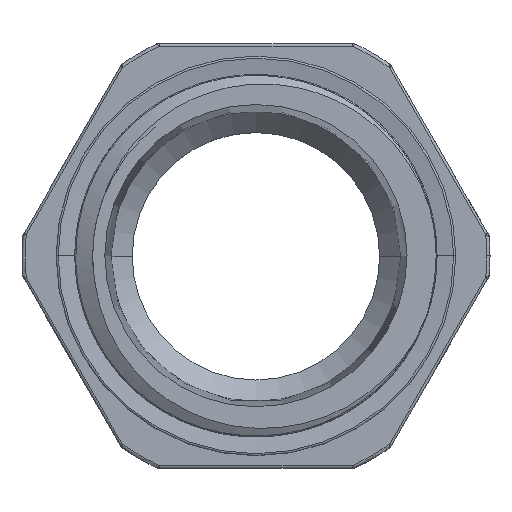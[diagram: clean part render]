
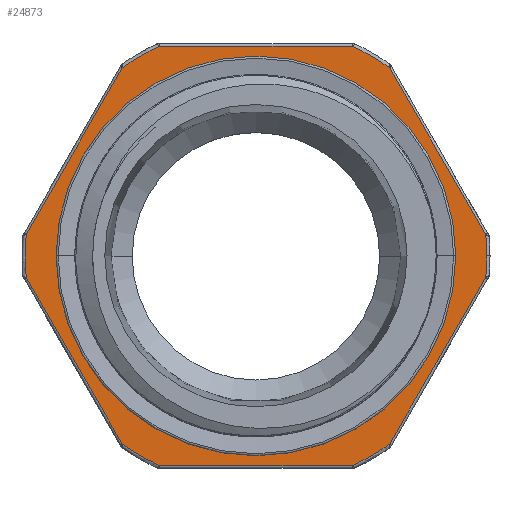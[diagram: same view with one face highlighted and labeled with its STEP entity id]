
A CAD part, top view. The second image highlights one B-rep face of the part: STEP entity #24873.
In plain terms, the highlighted planar face has unit normal (0, 0, 1).
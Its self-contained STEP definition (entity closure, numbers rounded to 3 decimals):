
#12 = CIRCLE ( 'NONE', #16426, 14.1 ) ;
#101 = CIRCLE ( 'NONE', #24486, 14.1 ) ;
#258 = DIRECTION ( 'NONE',  ( 0., 0., 1. ) ) ;
#395 = DIRECTION ( 'NONE',  ( 1., 0., 0. ) ) ;
#489 = DIRECTION ( 'NONE',  ( -1., 0., 0. ) ) ;
#787 = EDGE_CURVE ( 'NONE', #24104, #8530, #5812, .T. ) ;
#842 = DIRECTION ( 'NONE',  ( 0., 0., 1. ) ) ;
#926 = VERTEX_POINT ( 'NONE', #19427 ) ;
#1066 = LINE ( 'NONE', #7598, #7062 ) ;
#1251 = VERTEX_POINT ( 'NONE', #16241 ) ;
#1585 = VERTEX_POINT ( 'NONE', #7183 ) ;
#1716 = DIRECTION ( 'NONE',  ( 0., 0., 1. ) ) ;
#1762 = LINE ( 'NONE', #5958, #7954 ) ;
#1976 = AXIS2_PLACEMENT_3D ( 'NONE', #26405, #842, #9331 ) ;
#2004 = EDGE_CURVE ( 'NONE', #11115, #12052, #8380, .T. ) ;
#2221 = EDGE_CURVE ( 'NONE', #1585, #8891, #1066, .T. ) ;
#2350 = EDGE_CURVE ( 'NONE', #16838, #24739, #13855, .T. ) ;
#2392 = EDGE_CURVE ( 'NONE', #23527, #11115, #1762, .T. ) ;
#2720 = VERTEX_POINT ( 'NONE', #23976 ) ;
#3527 = ORIENTED_EDGE ( 'NONE', *, *, #13540, .T. ) ;
#3899 = VECTOR ( 'NONE', #20408, 1000. ) ;
#4202 = LINE ( 'NONE', #16554, #10109 ) ;
#4248 = ORIENTED_EDGE ( 'NONE', *, *, #2350, .T. ) ;
#4382 = PLANE ( 'NONE',  #17351 ) ;
#4434 = VECTOR ( 'NONE', #22342, 1000. ) ;
#4510 = CARTESIAN_POINT ( 'NONE',  ( 0., 0., 3.352 ) ) ;
#4773 = AXIS2_PLACEMENT_3D ( 'NONE', #10549, #5996, #24845 ) ;
#4802 = VERTEX_POINT ( 'NONE', #22478 ) ;
#5005 = VECTOR ( 'NONE', #489, 1000. ) ;
#5249 = DIRECTION ( 'NONE',  ( 0., 0., 1. ) ) ;
#5403 = CIRCLE ( 'NONE', #24880, 14.1 ) ;
#5604 = ORIENTED_EDGE ( 'NONE', *, *, #7449, .T. ) ;
#5812 = LINE ( 'NONE', #5944, #3899 ) ;
#5940 = CARTESIAN_POINT ( 'NONE',  ( -0.002, -0.001, 3.352 ) ) ;
#5944 = CARTESIAN_POINT ( 'NONE',  ( -14.842, -0.073, 3.352 ) ) ;
#5958 = CARTESIAN_POINT ( 'NONE',  ( 14.838, 0.071, 3.352 ) ) ;
#5996 = DIRECTION ( 'NONE',  ( 0., 0., 1. ) ) ;
#6711 = VERTEX_POINT ( 'NONE', #23828 ) ;
#6765 = CIRCLE ( 'NONE', #17439, 12.21 ) ;
#6861 = DIRECTION ( 'NONE',  ( 1., 0., 0. ) ) ;
#6936 = EDGE_CURVE ( 'NONE', #12052, #1585, #101, .T. ) ;
#7015 = CARTESIAN_POINT ( 'NONE',  ( 0., 0., 3.352 ) ) ;
#7062 = VECTOR ( 'NONE', #22062, 1000. ) ;
#7183 = CARTESIAN_POINT ( 'NONE',  ( 14.039, 1.311, 3.352 ) ) ;
#7307 = ORIENTED_EDGE ( 'NONE', *, *, #25964, .T. ) ;
#7330 = CARTESIAN_POINT ( 'NONE',  ( -7.36, -12.889, 3.352 ) ) ;
#7360 = CARTESIAN_POINT ( 'NONE',  ( -14.038, 1.319, 3.352 ) ) ;
#7387 = EDGE_CURVE ( 'NONE', #2720, #4802, #6765, .T. ) ;
#7449 = EDGE_CURVE ( 'NONE', #1251, #6711, #17330, .T. ) ;
#7598 = CARTESIAN_POINT ( 'NONE',  ( 7.356, 12.887, 3.352 ) ) ;
#7954 = VECTOR ( 'NONE', #14121, 1000. ) ;
#8252 = CARTESIAN_POINT ( 'NONE',  ( -0.002, -0.001, 3.352 ) ) ;
#8283 = DIRECTION ( 'NONE',  ( 0., 0., 1. ) ) ;
#8380 = CIRCLE ( 'NONE', #15475, 14.1 ) ;
#8530 = VERTEX_POINT ( 'NONE', #7360 ) ;
#8822 = ORIENTED_EDGE ( 'NONE', *, *, #2221, .T. ) ;
#8891 = VERTEX_POINT ( 'NONE', #12777 ) ;
#8998 = VERTEX_POINT ( 'NONE', #17659 ) ;
#9331 = DIRECTION ( 'NONE',  ( 1., 0., 0. ) ) ;
#9377 = DIRECTION ( 'NONE',  ( 0., 0., 1. ) ) ;
#9503 = CIRCLE ( 'NONE', #27260, 14.1 ) ;
#9673 = CARTESIAN_POINT ( 'NONE',  ( -14.038, -1.323, 3.352 ) ) ;
#10045 = EDGE_CURVE ( 'NONE', #8998, #926, #4202, .T. ) ;
#10109 = VECTOR ( 'NONE', #18947, 1000. ) ;
#10336 = FACE_BOUND ( 'NONE', #20170, .T. ) ;
#10404 = CIRCLE ( 'NONE', #1976, 14.1 ) ;
#10549 = CARTESIAN_POINT ( 'NONE',  ( 0., 0., 3.352 ) ) ;
#11115 = VERTEX_POINT ( 'NONE', #26667 ) ;
#11266 = EDGE_CURVE ( 'NONE', #926, #23527, #9503, .T. ) ;
#11847 = CIRCLE ( 'NONE', #27403, 12.21 ) ;
#12016 = CARTESIAN_POINT ( 'NONE',  ( -0.002, -0.001, 3.352 ) ) ;
#12052 = VERTEX_POINT ( 'NONE', #18785 ) ;
#12334 = CARTESIAN_POINT ( 'NONE',  ( -8.162, 11.498, 3.352 ) ) ;
#12418 = DIRECTION ( 'NONE',  ( 1., 0., 0. ) ) ;
#12777 = CARTESIAN_POINT ( 'NONE',  ( 8.155, 11.502, 3.352 ) ) ;
#13321 = ORIENTED_EDGE ( 'NONE', *, *, #2004, .T. ) ;
#13540 = EDGE_CURVE ( 'NONE', #6711, #24104, #5403, .T. ) ;
#13666 = CARTESIAN_POINT ( 'NONE',  ( -8.164, -11.496, 3.352 ) ) ;
#13855 = LINE ( 'NONE', #7330, #4434 ) ;
#14121 = DIRECTION ( 'NONE',  ( 0.5, 0.866, 0. ) ) ;
#14384 = DIRECTION ( 'NONE',  ( 1., 0., 0. ) ) ;
#14389 = DIRECTION ( 'NONE',  ( 0., 0., 1. ) ) ;
#14548 = EDGE_CURVE ( 'NONE', #8891, #1251, #12, .T. ) ;
#14626 = DIRECTION ( 'NONE',  ( 0., 0., 1. ) ) ;
#15135 = CARTESIAN_POINT ( 'NONE',  ( 0., 0., 3.352 ) ) ;
#15419 = EDGE_CURVE ( 'NONE', #24739, #8998, #10404, .T. ) ;
#15475 = AXIS2_PLACEMENT_3D ( 'NONE', #7015, #9377, #20104 ) ;
#16234 = EDGE_LOOP ( 'NONE', ( #16741, #13321, #24532, #8822, #24471, #5604, #3527, #19377, #7307, #4248, #22121, #17283, #22112 ) ) ;
#16241 = CARTESIAN_POINT ( 'NONE',  ( 5.882, 12.815, 3.352 ) ) ;
#16426 = AXIS2_PLACEMENT_3D ( 'NONE', #24262, #5249, #20129 ) ;
#16554 = CARTESIAN_POINT ( 'NONE',  ( 7.481, -12.817, 3.352 ) ) ;
#16741 = ORIENTED_EDGE ( 'NONE', *, *, #2392, .T. ) ;
#16838 = VERTEX_POINT ( 'NONE', #9673 ) ;
#17283 = ORIENTED_EDGE ( 'NONE', *, *, #10045, .T. ) ;
#17330 = LINE ( 'NONE', #21501, #5005 ) ;
#17351 = AXIS2_PLACEMENT_3D ( 'NONE', #8252, #1716, #6861 ) ;
#17439 = AXIS2_PLACEMENT_3D ( 'NONE', #12016, #14389, #22739 ) ;
#17659 = CARTESIAN_POINT ( 'NONE',  ( -5.876, -12.817, 3.352 ) ) ;
#18785 = CARTESIAN_POINT ( 'NONE',  ( 14.1, 0., 3.352 ) ) ;
#18947 = DIRECTION ( 'NONE',  ( 1., 0., 0. ) ) ;
#19348 = CARTESIAN_POINT ( 'NONE',  ( 8.158, -11.501, 3.352 ) ) ;
#19377 = ORIENTED_EDGE ( 'NONE', *, *, #787, .T. ) ;
#19427 = CARTESIAN_POINT ( 'NONE',  ( 5.876, -12.817, 3.352 ) ) ;
#19859 = CIRCLE ( 'NONE', #4773, 14.1 ) ;
#20104 = DIRECTION ( 'NONE',  ( 1., 0., 0. ) ) ;
#20129 = DIRECTION ( 'NONE',  ( 1., 0., 0. ) ) ;
#20170 = EDGE_LOOP ( 'NONE', ( #26249, #26229 ) ) ;
#20408 = DIRECTION ( 'NONE',  ( -0.5, -0.866, 0. ) ) ;
#21080 = DIRECTION ( 'NONE',  ( 0., 0., 1. ) ) ;
#21501 = CARTESIAN_POINT ( 'NONE',  ( -7.484, 12.815, 3.352 ) ) ;
#22062 = DIRECTION ( 'NONE',  ( -0.5, 0.866, 0. ) ) ;
#22112 = ORIENTED_EDGE ( 'NONE', *, *, #11266, .T. ) ;
#22121 = ORIENTED_EDGE ( 'NONE', *, *, #15419, .T. ) ;
#22342 = DIRECTION ( 'NONE',  ( 0.5, -0.866, 0. ) ) ;
#22478 = CARTESIAN_POINT ( 'NONE',  ( -12.212, -0.001, 3.352 ) ) ;
#22739 = DIRECTION ( 'NONE',  ( 1., 0., 0. ) ) ;
#23117 = DIRECTION ( 'NONE',  ( 1., 0., 0. ) ) ;
#23527 = VERTEX_POINT ( 'NONE', #19348 ) ;
#23828 = CARTESIAN_POINT ( 'NONE',  ( -5.882, 12.815, 3.352 ) ) ;
#23976 = CARTESIAN_POINT ( 'NONE',  ( 12.208, -0.001, 3.352 ) ) ;
#24104 = VERTEX_POINT ( 'NONE', #12334 ) ;
#24262 = CARTESIAN_POINT ( 'NONE',  ( 0., 0., 3.352 ) ) ;
#24471 = ORIENTED_EDGE ( 'NONE', *, *, #14548, .T. ) ;
#24486 = AXIS2_PLACEMENT_3D ( 'NONE', #4510, #14626, #23117 ) ;
#24532 = ORIENTED_EDGE ( 'NONE', *, *, #6936, .T. ) ;
#24739 = VERTEX_POINT ( 'NONE', #13666 ) ;
#24845 = DIRECTION ( 'NONE',  ( 1., 0., 0. ) ) ;
#24873 = ADVANCED_FACE ( 'NONE', ( #10336, #27287 ), #4382, .T. ) ;
#24880 = AXIS2_PLACEMENT_3D ( 'NONE', #27446, #21080, #12418 ) ;
#25964 = EDGE_CURVE ( 'NONE', #8530, #16838, #19859, .T. ) ;
#26229 = ORIENTED_EDGE ( 'NONE', *, *, #7387, .F. ) ;
#26249 = ORIENTED_EDGE ( 'NONE', *, *, #26602, .F. ) ;
#26405 = CARTESIAN_POINT ( 'NONE',  ( 0., 0., 3.352 ) ) ;
#26602 = EDGE_CURVE ( 'NONE', #4802, #2720, #11847, .T. ) ;
#26667 = CARTESIAN_POINT ( 'NONE',  ( 14.039, -1.314, 3.352 ) ) ;
#27260 = AXIS2_PLACEMENT_3D ( 'NONE', #15135, #258, #395 ) ;
#27287 = FACE_OUTER_BOUND ( 'NONE', #16234, .T. ) ;
#27403 = AXIS2_PLACEMENT_3D ( 'NONE', #5940, #8283, #14384 ) ;
#27446 = CARTESIAN_POINT ( 'NONE',  ( 0., 0., 3.352 ) ) ;
